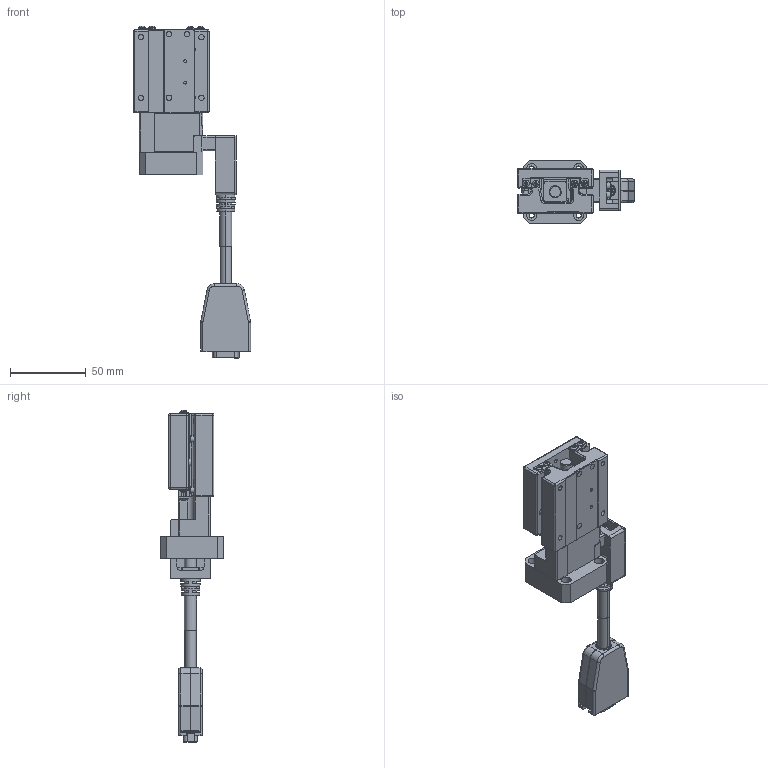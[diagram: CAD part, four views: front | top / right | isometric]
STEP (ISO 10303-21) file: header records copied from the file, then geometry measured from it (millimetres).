
FILE_DESCRIPTION (( 'STEP AP203' ), '1' );
FILE_NAME ('CXS5020(42框無馬達).STEP', '2023-12-25T06:06:45', ( '' ), ( '' ), 'SwSTEP 2.0', 'SolidWorks 2019', '' );
FILE_SCHEMA (( 'CONFIG_CONTROL_DESIGN' ));
Products named in the file (4): CXS50-G42_GMT; CXS5020(42框無馬達); Group2^CXS5020(42框無馬達)_defeature_GMT; Group1^CXS5020(42框無馬達)_defeature_GMT
Assembly tree (3 placements, depth 2):
  CXS5020(42框無馬達)
    Group1^CXS5020(42框無馬達)_defeature_GMT
    Group2^CXS5020(42框無馬達)_defeature_GMT
    CXS50-G42_GMT
Bounding box: 77.5 x 42 x 219.48 mm (x, y, z)
Volume: 119835.1 mm3; surface area: 62644.7 mm2
Topology: 7 solids, 7 shells, 5348 faces, 13782 edges, 8709 vertices
Faces by surface type: plane 2884, bspline 1328, cylinder 864, cone 127, sphere 100, torus 45
Entity records: 179172 total; most frequent: CARTESIAN_POINT 59505, ORIENTED_EDGE 27356, DIRECTION 19866, EDGE_CURVE 13678, VERTEX_POINT 8709, LINE 7952, VECTOR 7952, AXIS2_PLACEMENT_3D 5957
